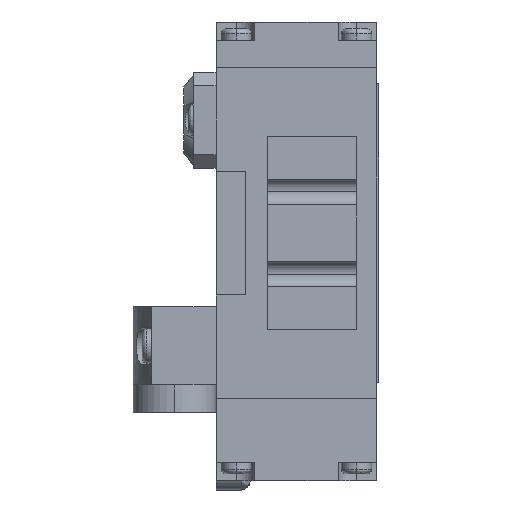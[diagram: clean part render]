
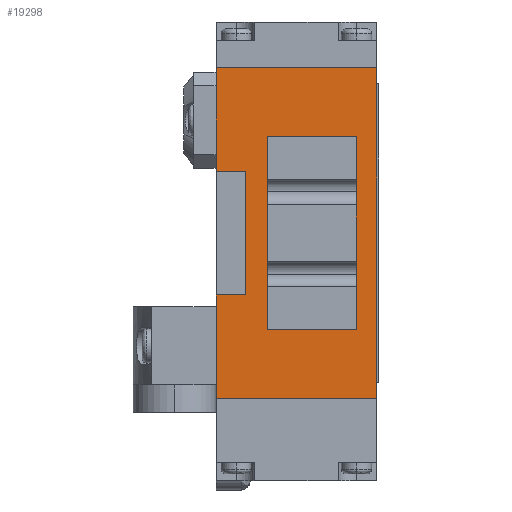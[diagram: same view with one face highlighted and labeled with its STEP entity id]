
A CAD part, left-side view. The second image highlights one B-rep face of the part: STEP entity #19298.
In plain terms, the highlighted planar face has unit normal (-1, 0, 0).
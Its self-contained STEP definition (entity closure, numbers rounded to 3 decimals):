
#89 = ORIENTED_EDGE ( 'NONE', *, *, #15445, .T. ) ;
#240 = EDGE_LOOP ( 'NONE', ( #10291, #4228, #18033, #89 ) ) ;
#595 = CARTESIAN_POINT ( 'NONE',  ( -20., 17.15, -49.5 ) ) ;
#734 = EDGE_CURVE ( 'NONE', #14437, #17980, #1730, .T. ) ;
#753 = CARTESIAN_POINT ( 'NONE',  ( -20., -13.45, -57. ) ) ;
#932 = FACE_BOUND ( 'NONE', #240, .T. ) ;
#1620 = CARTESIAN_POINT ( 'NONE',  ( -20., 10.75, -72. ) ) ;
#1707 = VERTEX_POINT ( 'NONE', #3675 ) ;
#1730 = LINE ( 'NONE', #17410, #13815 ) ;
#1844 = EDGE_CURVE ( 'NONE', #2195, #14437, #15780, .T. ) ;
#1895 = EDGE_CURVE ( 'NONE', #12558, #8278, #14273, .T. ) ;
#1931 = LINE ( 'NONE', #15829, #5576 ) ;
#2008 = CARTESIAN_POINT ( 'NONE',  ( -20., 17.15, -22.5 ) ) ;
#2011 = CARTESIAN_POINT ( 'NONE',  ( -20., 17.15, 0. ) ) ;
#2024 = DIRECTION ( 'NONE',  ( 0., -1., 0. ) ) ;
#2195 = VERTEX_POINT ( 'NONE', #16008 ) ;
#2502 = DIRECTION ( 'NONE',  ( 0., 0., 1. ) ) ;
#2564 = CARTESIAN_POINT ( 'NONE',  ( -20., -17.85, -72. ) ) ;
#2625 = EDGE_CURVE ( 'NONE', #15355, #2660, #1931, .T. ) ;
#2660 = VERTEX_POINT ( 'NONE', #14869 ) ;
#2726 = ORIENTED_EDGE ( 'NONE', *, *, #4916, .T. ) ;
#3137 = DIRECTION ( 'NONE',  ( 0., 1., 0. ) ) ;
#3176 = DIRECTION ( 'NONE',  ( 0., 0., -1. ) ) ;
#3404 = CARTESIAN_POINT ( 'NONE',  ( -20., 17.15, -49.5 ) ) ;
#3476 = VERTEX_POINT ( 'NONE', #595 ) ;
#3675 = CARTESIAN_POINT ( 'NONE',  ( -20., -13.45, -15. ) ) ;
#3804 = LINE ( 'NONE', #8801, #4818 ) ;
#3830 = DIRECTION ( 'NONE',  ( 0., -1., 0. ) ) ;
#3925 = CARTESIAN_POINT ( 'NONE',  ( -20., 17.15, -72. ) ) ;
#4228 = ORIENTED_EDGE ( 'NONE', *, *, #4279, .T. ) ;
#4279 = EDGE_CURVE ( 'NONE', #18694, #15355, #15412, .T. ) ;
#4487 = ORIENTED_EDGE ( 'NONE', *, *, #734, .T. ) ;
#4628 = EDGE_CURVE ( 'NONE', #17919, #2195, #4735, .T. ) ;
#4735 = LINE ( 'NONE', #3925, #12666 ) ;
#4818 = VECTOR ( 'NONE', #18136, 1000. ) ;
#4916 = EDGE_CURVE ( 'NONE', #18039, #3476, #15629, .T. ) ;
#5576 = VECTOR ( 'NONE', #16142, 1000. ) ;
#6253 = PLANE ( 'NONE',  #17998 ) ;
#7608 = DIRECTION ( 'NONE',  ( 0., -1., 0. ) ) ;
#7659 = CARTESIAN_POINT ( 'NONE',  ( -20., 17.15, -72. ) ) ;
#7843 = ORIENTED_EDGE ( 'NONE', *, *, #13795, .F. ) ;
#7919 = DIRECTION ( 'NONE',  ( 0., 0., 1. ) ) ;
#8126 = VECTOR ( 'NONE', #7608, 1000. ) ;
#8278 = VERTEX_POINT ( 'NONE', #17063 ) ;
#8441 = DIRECTION ( 'NONE',  ( 0., 0., 1. ) ) ;
#8801 = CARTESIAN_POINT ( 'NONE',  ( -20., -13.45, -72. ) ) ;
#9256 = CARTESIAN_POINT ( 'NONE',  ( -20., 17.15, -22.5 ) ) ;
#9726 = CARTESIAN_POINT ( 'NONE',  ( -20., 17.15, -72. ) ) ;
#9948 = CARTESIAN_POINT ( 'NONE',  ( -20., 17.15, -57. ) ) ;
#9974 = DIRECTION ( 'NONE',  ( 0., 1., 0. ) ) ;
#10020 = CARTESIAN_POINT ( 'NONE',  ( -20., -17.85, 0. ) ) ;
#10098 = VECTOR ( 'NONE', #2024, 1000. ) ;
#10291 = ORIENTED_EDGE ( 'NONE', *, *, #19659, .T. ) ;
#10446 = CARTESIAN_POINT ( 'NONE',  ( -20., 6.05, -57. ) ) ;
#11525 = ORIENTED_EDGE ( 'NONE', *, *, #1844, .T. ) ;
#11771 = ORIENTED_EDGE ( 'NONE', *, *, #14249, .T. ) ;
#11906 = VECTOR ( 'NONE', #3137, 1000. ) ;
#12340 = EDGE_CURVE ( 'NONE', #12558, #17980, #16455, .T. ) ;
#12355 = DIRECTION ( 'NONE',  ( 0., 0., 1. ) ) ;
#12558 = VERTEX_POINT ( 'NONE', #9256 ) ;
#12666 = VECTOR ( 'NONE', #3830, 1000. ) ;
#12971 = VECTOR ( 'NONE', #3176, 1000. ) ;
#12988 = LINE ( 'NONE', #7659, #16674 ) ;
#13009 = FACE_OUTER_BOUND ( 'NONE', #15259, .T. ) ;
#13795 = EDGE_CURVE ( 'NONE', #17919, #3476, #12988, .T. ) ;
#13815 = VECTOR ( 'NONE', #20282, 1000. ) ;
#13973 = VECTOR ( 'NONE', #8441, 1000. ) ;
#14173 = CARTESIAN_POINT ( 'NONE',  ( -20., 17.15, -72. ) ) ;
#14249 = EDGE_CURVE ( 'NONE', #8278, #18039, #17615, .T. ) ;
#14273 = LINE ( 'NONE', #2008, #10098 ) ;
#14437 = VERTEX_POINT ( 'NONE', #10020 ) ;
#14869 = CARTESIAN_POINT ( 'NONE',  ( -20., 6.05, -15. ) ) ;
#14903 = VECTOR ( 'NONE', #9974, 1000. ) ;
#15205 = ORIENTED_EDGE ( 'NONE', *, *, #1895, .T. ) ;
#15259 = EDGE_LOOP ( 'NONE', ( #4487, #18177, #15205, #11771, #2726, #7843, #15890, #11525 ) ) ;
#15355 = VERTEX_POINT ( 'NONE', #10446 ) ;
#15412 = LINE ( 'NONE', #9948, #14903 ) ;
#15445 = EDGE_CURVE ( 'NONE', #2660, #1707, #19189, .T. ) ;
#15486 = CARTESIAN_POINT ( 'NONE',  ( -20., 17.15, -15. ) ) ;
#15629 = LINE ( 'NONE', #3404, #11906 ) ;
#15780 = LINE ( 'NONE', #2564, #16262 ) ;
#15829 = CARTESIAN_POINT ( 'NONE',  ( -20., 6.05, -72. ) ) ;
#15890 = ORIENTED_EDGE ( 'NONE', *, *, #4628, .T. ) ;
#16008 = CARTESIAN_POINT ( 'NONE',  ( -20., -17.85, -72. ) ) ;
#16142 = DIRECTION ( 'NONE',  ( 0., 0., 1. ) ) ;
#16262 = VECTOR ( 'NONE', #2502, 1000. ) ;
#16455 = LINE ( 'NONE', #19420, #13973 ) ;
#16674 = VECTOR ( 'NONE', #12355, 1000. ) ;
#17063 = CARTESIAN_POINT ( 'NONE',  ( -20., 10.75, -22.5 ) ) ;
#17344 = DIRECTION ( 'NONE',  ( -1., 0., 0. ) ) ;
#17410 = CARTESIAN_POINT ( 'NONE',  ( -20., 17.15, 0. ) ) ;
#17615 = LINE ( 'NONE', #1620, #12971 ) ;
#17919 = VERTEX_POINT ( 'NONE', #9726 ) ;
#17980 = VERTEX_POINT ( 'NONE', #2011 ) ;
#17998 = AXIS2_PLACEMENT_3D ( 'NONE', #14173, #17344, #7919 ) ;
#18033 = ORIENTED_EDGE ( 'NONE', *, *, #2625, .T. ) ;
#18039 = VERTEX_POINT ( 'NONE', #19310 ) ;
#18136 = DIRECTION ( 'NONE',  ( 0., 0., -1. ) ) ;
#18177 = ORIENTED_EDGE ( 'NONE', *, *, #12340, .F. ) ;
#18694 = VERTEX_POINT ( 'NONE', #753 ) ;
#19189 = LINE ( 'NONE', #15486, #8126 ) ;
#19298 = ADVANCED_FACE ( 'NONE', ( #932, #13009 ), #6253, .T. ) ;
#19310 = CARTESIAN_POINT ( 'NONE',  ( -20., 10.75, -49.5 ) ) ;
#19420 = CARTESIAN_POINT ( 'NONE',  ( -20., 17.15, -72. ) ) ;
#19659 = EDGE_CURVE ( 'NONE', #1707, #18694, #3804, .T. ) ;
#20282 = DIRECTION ( 'NONE',  ( 0., 1., 0. ) ) ;
